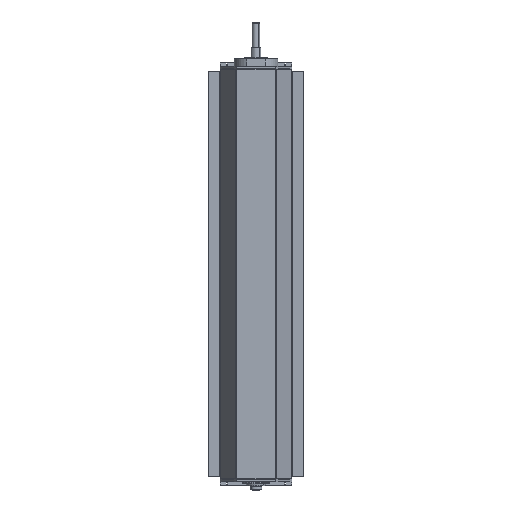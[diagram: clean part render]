
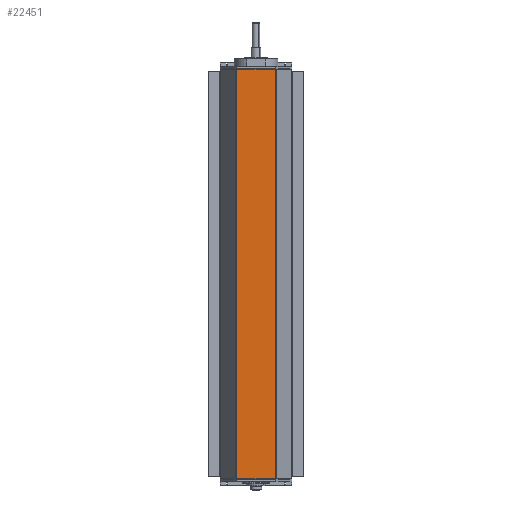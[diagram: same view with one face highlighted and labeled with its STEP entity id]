
A CAD part, front view. The second image highlights one B-rep face of the part: STEP entity #22451.
In plain terms, the highlighted planar face has unit normal (0, -1, 0).
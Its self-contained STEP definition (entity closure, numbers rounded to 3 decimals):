
#1261 = EDGE_CURVE ( 'NONE', #23079, #15437, #3273, .T. ) ;
#1510 = EDGE_CURVE ( 'NONE', #22596, #23079, #3555, .T. ) ;
#1805 = DIRECTION ( 'NONE',  ( 1., 0., 0. ) ) ;
#1860 = CARTESIAN_POINT ( 'NONE',  ( 48.268, 0., 514.5 ) ) ;
#2628 = LINE ( 'NONE', #1860, #5996 ) ;
#2841 = ORIENTED_EDGE ( 'NONE', *, *, #22783, .F. ) ;
#2952 = PLANE ( 'NONE',  #8326 ) ;
#3207 = ORIENTED_EDGE ( 'NONE', *, *, #1510, .T. ) ;
#3273 = LINE ( 'NONE', #24857, #23422 ) ;
#3555 = LINE ( 'NONE', #18084, #20359 ) ;
#4152 = VERTEX_POINT ( 'NONE', #7408 ) ;
#4538 = ORIENTED_EDGE ( 'NONE', *, *, #15216, .F. ) ;
#5996 = VECTOR ( 'NONE', #7659, 1000. ) ;
#6791 = FACE_OUTER_BOUND ( 'NONE', #17392, .T. ) ;
#7408 = CARTESIAN_POINT ( 'NONE',  ( 48.268, 0., 514.5 ) ) ;
#7659 = DIRECTION ( 'NONE',  ( 0., 0., -1. ) ) ;
#8326 = AXIS2_PLACEMENT_3D ( 'NONE', #24288, #20442, #20766 ) ;
#9649 = CARTESIAN_POINT ( 'NONE',  ( -50., 0., 514.5 ) ) ;
#12200 = LINE ( 'NONE', #9649, #23519 ) ;
#12635 = CARTESIAN_POINT ( 'NONE',  ( -48.268, 0., -514.5 ) ) ;
#14696 = CARTESIAN_POINT ( 'NONE',  ( 48.268, 0., -514.5 ) ) ;
#15216 = EDGE_CURVE ( 'NONE', #4152, #15437, #2628, .T. ) ;
#15437 = VERTEX_POINT ( 'NONE', #14696 ) ;
#17392 = EDGE_LOOP ( 'NONE', ( #21121, #4538, #2841, #3207 ) ) ;
#18084 = CARTESIAN_POINT ( 'NONE',  ( -48.268, 0., 514.5 ) ) ;
#20050 = DIRECTION ( 'NONE',  ( 0., 0., -1. ) ) ;
#20359 = VECTOR ( 'NONE', #20050, 1000. ) ;
#20442 = DIRECTION ( 'NONE',  ( 0., 1., 0. ) ) ;
#20766 = DIRECTION ( 'NONE',  ( 0., 0., 1. ) ) ;
#21020 = CARTESIAN_POINT ( 'NONE',  ( -48.268, 0., 514.5 ) ) ;
#21121 = ORIENTED_EDGE ( 'NONE', *, *, #1261, .T. ) ;
#21429 = DIRECTION ( 'NONE',  ( 1., 0., 0. ) ) ;
#22451 = ADVANCED_FACE ( 'NONE', ( #6791 ), #2952, .F. ) ;
#22596 = VERTEX_POINT ( 'NONE', #21020 ) ;
#22783 = EDGE_CURVE ( 'NONE', #22596, #4152, #12200, .T. ) ;
#23079 = VERTEX_POINT ( 'NONE', #12635 ) ;
#23422 = VECTOR ( 'NONE', #21429, 1000. ) ;
#23519 = VECTOR ( 'NONE', #1805, 1000. ) ;
#24288 = CARTESIAN_POINT ( 'NONE',  ( -50., 0., 514.5 ) ) ;
#24857 = CARTESIAN_POINT ( 'NONE',  ( -50., 0., -514.5 ) ) ;
